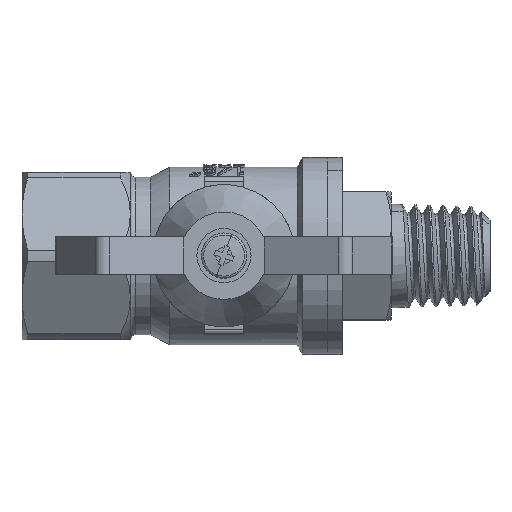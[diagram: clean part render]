
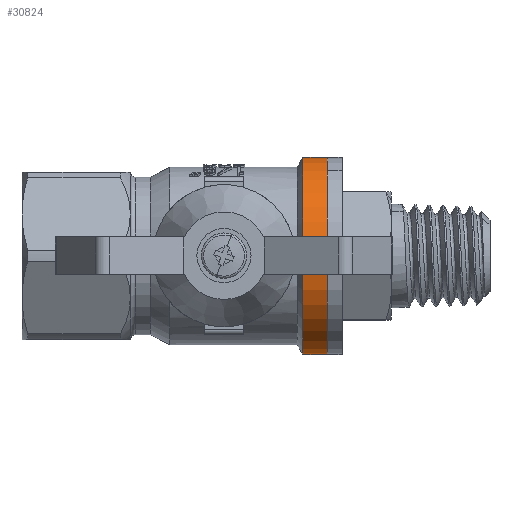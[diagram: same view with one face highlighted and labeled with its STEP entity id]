
A CAD part, top view. The second image highlights one B-rep face of the part: STEP entity #30824.
In plain terms, the highlighted cylindrical face has radius 10 mm (diameter 20 mm), a partial arc.
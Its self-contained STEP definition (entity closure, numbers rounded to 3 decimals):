
#30809 = PLANE('',#30810);
#30810 = AXIS2_PLACEMENT_3D('',#30811,#30812,#30813);
#30811 = CARTESIAN_POINT('',(10.5,-5.96,
    0.238));
#30812 = DIRECTION('',(1.,0.,0.));
#30813 = DIRECTION('',(-0.,1.,0.));
#30824 = ADVANCED_FACE('',(#30825),#30840,.T.);
#30825 = FACE_BOUND('',#30826,.T.);
#30826 = EDGE_LOOP('',(#30827,#30862,#30890,#30919));
#30827 = ORIENTED_EDGE('',*,*,#30828,.T.);
#30828 = EDGE_CURVE('',#30829,#30831,#30833,.T.);
#30829 = VERTEX_POINT('',#30830);
#30830 = CARTESIAN_POINT('',(10.5,-15.96,
    0.238));
#30831 = VERTEX_POINT('',#30832);
#30832 = CARTESIAN_POINT('',(10.5,4.04,
    0.238));
#30833 = SURFACE_CURVE('',#30834,(#30839,#30851),.PCURVE_S1.);
#30834 = CIRCLE('',#30835,10.);
#30835 = AXIS2_PLACEMENT_3D('',#30836,#30837,#30838);
#30836 = CARTESIAN_POINT('',(10.5,-5.96,
    0.238));
#30837 = DIRECTION('',(-1.,0.,0.));
#30838 = DIRECTION('',(-0.,-1.,0.));
#30839 = PCURVE('',#30840,#30845);
#30840 = CYLINDRICAL_SURFACE('',#30841,10.);
#30841 = AXIS2_PLACEMENT_3D('',#30842,#30843,#30844);
#30842 = CARTESIAN_POINT('',(-20.5,-5.96,0.238));
#30843 = DIRECTION('',(-1.,0.,0.));
#30844 = DIRECTION('',(-0.,-1.,0.));
#30845 = DEFINITIONAL_REPRESENTATION('',(#30846),#30850);
#30846 = LINE('',#30847,#30848);
#30847 = CARTESIAN_POINT('',(0.,-31.));
#30848 = VECTOR('',#30849,1.);
#30849 = DIRECTION('',(1.,0.));
#30850 = ( GEOMETRIC_REPRESENTATION_CONTEXT(2) 
PARAMETRIC_REPRESENTATION_CONTEXT() REPRESENTATION_CONTEXT('2D SPACE',''
  ) );
#30851 = PCURVE('',#30809,#30852);
#30852 = DEFINITIONAL_REPRESENTATION('',(#30853),#30861);
#30853 = ( BOUNDED_CURVE() B_SPLINE_CURVE(2,(#30854,#30855,#30856,#30857
    ,#30858,#30859,#30860),.UNSPECIFIED.,.T.,.F.) 
B_SPLINE_CURVE_WITH_KNOTS((1,2,2,2,2,1),(-2.094,0.,
    2.094,4.189,6.283,8.378),
.UNSPECIFIED.) CURVE() GEOMETRIC_REPRESENTATION_ITEM() 
RATIONAL_B_SPLINE_CURVE((1.,0.5,1.,0.5,1.,0.5,1.)) REPRESENTATION_ITEM(
  '') );
#30854 = CARTESIAN_POINT('',(-10.,0.));
#30855 = CARTESIAN_POINT('',(-10.,17.321));
#30856 = CARTESIAN_POINT('',(5.,8.66));
#30857 = CARTESIAN_POINT('',(20.,0.));
#30858 = CARTESIAN_POINT('',(5.,-8.66));
#30859 = CARTESIAN_POINT('',(-10.,-17.321));
#30860 = CARTESIAN_POINT('',(-10.,0.));
#30861 = ( GEOMETRIC_REPRESENTATION_CONTEXT(2) 
PARAMETRIC_REPRESENTATION_CONTEXT() REPRESENTATION_CONTEXT('2D SPACE',''
  ) );
#30862 = ORIENTED_EDGE('',*,*,#30863,.T.);
#30863 = EDGE_CURVE('',#30831,#30864,#30866,.T.);
#30864 = VERTEX_POINT('',#30865);
#30865 = CARTESIAN_POINT('',(8.,4.04,
    0.238));
#30866 = SURFACE_CURVE('',#30867,(#30871,#30878),.PCURVE_S1.);
#30867 = LINE('',#30868,#30869);
#30868 = CARTESIAN_POINT('',(-20.5,4.04,0.238));
#30869 = VECTOR('',#30870,1.);
#30870 = DIRECTION('',(-1.,0.,0.));
#30871 = PCURVE('',#30840,#30872);
#30872 = DEFINITIONAL_REPRESENTATION('',(#30873),#30877);
#30873 = LINE('',#30874,#30875);
#30874 = CARTESIAN_POINT('',(3.142,0.));
#30875 = VECTOR('',#30876,1.);
#30876 = DIRECTION('',(0.,1.));
#30877 = ( GEOMETRIC_REPRESENTATION_CONTEXT(2) 
PARAMETRIC_REPRESENTATION_CONTEXT() REPRESENTATION_CONTEXT('2D SPACE',''
  ) );
#30878 = PCURVE('',#30879,#30884);
#30879 = CYLINDRICAL_SURFACE('',#30880,10.);
#30880 = AXIS2_PLACEMENT_3D('',#30881,#30882,#30883);
#30881 = CARTESIAN_POINT('',(-20.5,-5.96,0.238));
#30882 = DIRECTION('',(-1.,0.,0.));
#30883 = DIRECTION('',(-0.,-1.,0.));
#30884 = DEFINITIONAL_REPRESENTATION('',(#30885),#30889);
#30885 = LINE('',#30886,#30887);
#30886 = CARTESIAN_POINT('',(3.142,0.));
#30887 = VECTOR('',#30888,1.);
#30888 = DIRECTION('',(0.,1.));
#30889 = ( GEOMETRIC_REPRESENTATION_CONTEXT(2) 
PARAMETRIC_REPRESENTATION_CONTEXT() REPRESENTATION_CONTEXT('2D SPACE',''
  ) );
#30890 = ORIENTED_EDGE('',*,*,#30891,.F.);
#30891 = EDGE_CURVE('',#30892,#30864,#30894,.T.);
#30892 = VERTEX_POINT('',#30893);
#30893 = CARTESIAN_POINT('',(8.,-15.96,
    0.238));
#30894 = SURFACE_CURVE('',#30895,(#30900,#30907),.PCURVE_S1.);
#30895 = CIRCLE('',#30896,10.);
#30896 = AXIS2_PLACEMENT_3D('',#30897,#30898,#30899);
#30897 = CARTESIAN_POINT('',(8.,-5.96,
    0.238));
#30898 = DIRECTION('',(-1.,0.,0.));
#30899 = DIRECTION('',(-0.,-1.,0.));
#30900 = PCURVE('',#30840,#30901);
#30901 = DEFINITIONAL_REPRESENTATION('',(#30902),#30906);
#30902 = LINE('',#30903,#30904);
#30903 = CARTESIAN_POINT('',(0.,-28.5));
#30904 = VECTOR('',#30905,1.);
#30905 = DIRECTION('',(1.,0.));
#30906 = ( GEOMETRIC_REPRESENTATION_CONTEXT(2) 
PARAMETRIC_REPRESENTATION_CONTEXT() REPRESENTATION_CONTEXT('2D SPACE',''
  ) );
#30907 = PCURVE('',#30908,#30913);
#30908 = CONICAL_SURFACE('',#30909,10.,1.047);
#30909 = AXIS2_PLACEMENT_3D('',#30910,#30911,#30912);
#30910 = CARTESIAN_POINT('',(8.,-5.96,
    0.238));
#30911 = DIRECTION('',(1.,0.,0.));
#30912 = DIRECTION('',(-0.,1.,0.));
#30913 = DEFINITIONAL_REPRESENTATION('',(#30914),#30918);
#30914 = LINE('',#30915,#30916);
#30915 = CARTESIAN_POINT('',(3.142,0.));
#30916 = VECTOR('',#30917,1.);
#30917 = DIRECTION('',(-1.,0.));
#30918 = ( GEOMETRIC_REPRESENTATION_CONTEXT(2) 
PARAMETRIC_REPRESENTATION_CONTEXT() REPRESENTATION_CONTEXT('2D SPACE',''
  ) );
#30919 = ORIENTED_EDGE('',*,*,#30920,.F.);
#30920 = EDGE_CURVE('',#30829,#30892,#30921,.T.);
#30921 = SURFACE_CURVE('',#30922,(#30926,#30933),.PCURVE_S1.);
#30922 = LINE('',#30923,#30924);
#30923 = CARTESIAN_POINT('',(-20.5,-15.96,0.238));
#30924 = VECTOR('',#30925,1.);
#30925 = DIRECTION('',(-1.,0.,0.));
#30926 = PCURVE('',#30840,#30927);
#30927 = DEFINITIONAL_REPRESENTATION('',(#30928),#30932);
#30928 = LINE('',#30929,#30930);
#30929 = CARTESIAN_POINT('',(0.,0.));
#30930 = VECTOR('',#30931,1.);
#30931 = DIRECTION('',(0.,1.));
#30932 = ( GEOMETRIC_REPRESENTATION_CONTEXT(2) 
PARAMETRIC_REPRESENTATION_CONTEXT() REPRESENTATION_CONTEXT('2D SPACE',''
  ) );
#30933 = PCURVE('',#30879,#30934);
#30934 = DEFINITIONAL_REPRESENTATION('',(#30935),#30939);
#30935 = LINE('',#30936,#30937);
#30936 = CARTESIAN_POINT('',(6.283,0.));
#30937 = VECTOR('',#30938,1.);
#30938 = DIRECTION('',(0.,1.));
#30939 = ( GEOMETRIC_REPRESENTATION_CONTEXT(2) 
PARAMETRIC_REPRESENTATION_CONTEXT() REPRESENTATION_CONTEXT('2D SPACE',''
  ) );
